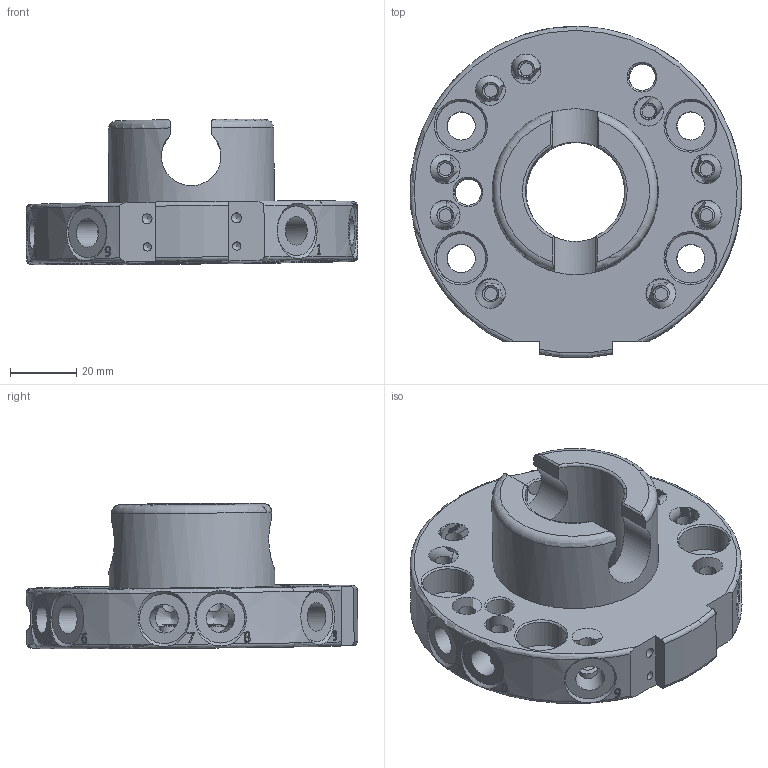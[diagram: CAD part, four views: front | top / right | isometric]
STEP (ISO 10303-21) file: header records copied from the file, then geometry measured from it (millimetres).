
FILE_DESCRIPTION(/* description */ (''),/* implementation_level */ '2;1');
FILE_NAME(/* name */ 'G-SHS100-U-A080.stp',/* time_stamp */ '2024-05-24T11:28:36+02:00',/* author */ ('ysplieth'),/* organization */ (''),/* preprocessor_version */ 'ST-DEVELOPER v20',/* originating_system */ 'Autodesk Inventor 2024',/* authorisation */ '');
FILE_SCHEMA (('AUTOMOTIVE_DESIGN { 1 0 10303 214 3 1 1 }'));
Length unit declared in the file: millimetre
Products named in the file (1): Bauteil1
Bounding box: 100.11 x 99.99 x 43.93 mm (x, y, z)
Volume: 125615.4 mm3; surface area: 34110.8 mm2
Topology: 1 solids, 1 shells, 654 faces, 1763 edges, 1161 vertices
Faces by surface type: plane 247, bspline 213, cylinder 101, cone 83, torus 10
Full cylindrical faces by diameter (mm): 2.5 x2, 3 x2, 5 x19, 8 x2, 8.5 x4, 8.7 x9, 9 x9, 15 x4, 30 x1, 50 x2
Entity records: 51296 total; most frequent: CARTESIAN_POINT 35974, ORIENTED_EDGE 3484, DIRECTION 2213, EDGE_CURVE 1742, VERTEX_POINT 1161, EDGE_LOOP 757, LINE 755, VECTOR 755
